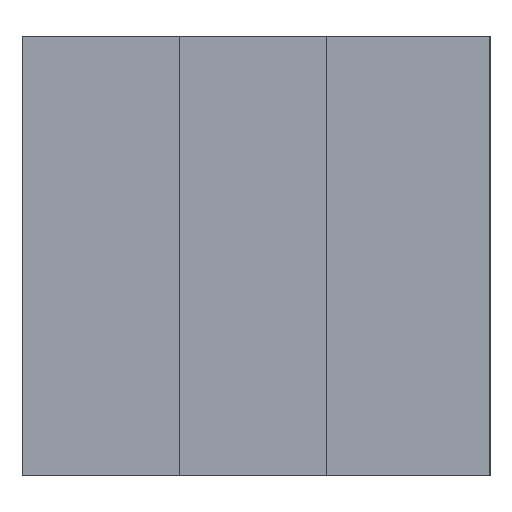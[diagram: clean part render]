
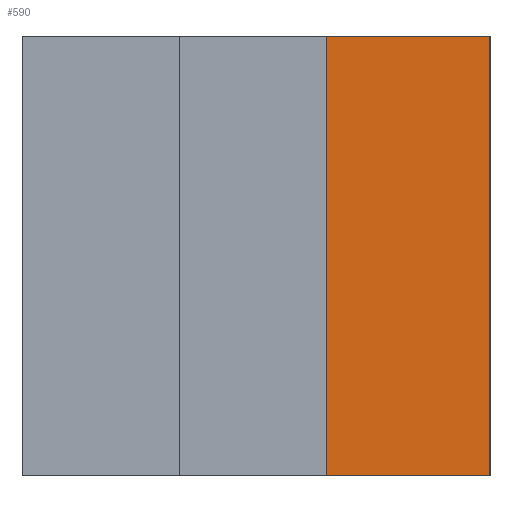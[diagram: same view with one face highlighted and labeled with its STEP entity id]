
A CAD part, left-side view. The second image highlights one B-rep face of the part: STEP entity #590.
In plain terms, the highlighted planar face has unit normal (-1, 0, 0).
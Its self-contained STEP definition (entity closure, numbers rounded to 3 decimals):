
#72 = PLANE('',#73);
#73 = AXIS2_PLACEMENT_3D('',#74,#75,#76);
#74 = CARTESIAN_POINT('',(60.,0.,7.));
#75 = DIRECTION('',(0.,0.,1.));
#76 = DIRECTION('',(1.,0.,0.));
#126 = PLANE('',#127);
#127 = AXIS2_PLACEMENT_3D('',#128,#129,#130);
#128 = CARTESIAN_POINT('',(60.,0.,0.));
#129 = DIRECTION('',(0.,0.,1.));
#130 = DIRECTION('',(1.,0.,0.));
#257 = PLANE('',#258);
#258 = AXIS2_PLACEMENT_3D('',#259,#260,#261);
#259 = CARTESIAN_POINT('',(120.,-3.725,0.));
#260 = DIRECTION('',(0.,-1.,0.));
#261 = DIRECTION('',(-1.,0.,0.));
#343 = VERTEX_POINT('',#344);
#344 = CARTESIAN_POINT('',(0.,-1.125,0.));
#357 = PLANE('',#358);
#358 = AXIS2_PLACEMENT_3D('',#359,#360,#361);
#359 = CARTESIAN_POINT('',(118.,-1.125,7.));
#360 = DIRECTION('',(0.,1.,-0.));
#361 = DIRECTION('',(-1.,0.,0.));
#368 = EDGE_CURVE('',#369,#343,#371,.T.);
#369 = VERTEX_POINT('',#370);
#370 = CARTESIAN_POINT('',(0.,-3.725,0.));
#371 = SURFACE_CURVE('',#372,(#376,#383),.PCURVE_S1.);
#372 = LINE('',#373,#374);
#373 = CARTESIAN_POINT('',(0.,-3.725,0.));
#374 = VECTOR('',#375,1.);
#375 = DIRECTION('',(0.,1.,0.));
#376 = PCURVE('',#126,#377);
#377 = DEFINITIONAL_REPRESENTATION('',(#378),#382);
#378 = LINE('',#379,#380);
#379 = CARTESIAN_POINT('',(-60.,-3.725));
#380 = VECTOR('',#381,1.);
#381 = DIRECTION('',(0.,1.));
#382 = ( GEOMETRIC_REPRESENTATION_CONTEXT(2) 
PARAMETRIC_REPRESENTATION_CONTEXT() REPRESENTATION_CONTEXT('2D SPACE',''
  ) );
#383 = PCURVE('',#384,#389);
#384 = PLANE('',#385);
#385 = AXIS2_PLACEMENT_3D('',#386,#387,#388);
#386 = CARTESIAN_POINT('',(0.,-3.725,0.));
#387 = DIRECTION('',(-1.,0.,0.));
#388 = DIRECTION('',(0.,1.,0.));
#389 = DEFINITIONAL_REPRESENTATION('',(#390),#394);
#390 = LINE('',#391,#392);
#391 = CARTESIAN_POINT('',(0.,0.));
#392 = VECTOR('',#393,1.);
#393 = DIRECTION('',(1.,0.));
#394 = ( GEOMETRIC_REPRESENTATION_CONTEXT(2) 
PARAMETRIC_REPRESENTATION_CONTEXT() REPRESENTATION_CONTEXT('2D SPACE',''
  ) );
#470 = VERTEX_POINT('',#471);
#471 = CARTESIAN_POINT('',(0.,-1.125,7.));
#492 = EDGE_CURVE('',#493,#470,#495,.T.);
#493 = VERTEX_POINT('',#494);
#494 = CARTESIAN_POINT('',(0.,-3.725,7.));
#495 = SURFACE_CURVE('',#496,(#500,#507),.PCURVE_S1.);
#496 = LINE('',#497,#498);
#497 = CARTESIAN_POINT('',(0.,-3.725,7.));
#498 = VECTOR('',#499,1.);
#499 = DIRECTION('',(0.,1.,0.));
#500 = PCURVE('',#72,#501);
#501 = DEFINITIONAL_REPRESENTATION('',(#502),#506);
#502 = LINE('',#503,#504);
#503 = CARTESIAN_POINT('',(-60.,-3.725));
#504 = VECTOR('',#505,1.);
#505 = DIRECTION('',(0.,1.));
#506 = ( GEOMETRIC_REPRESENTATION_CONTEXT(2) 
PARAMETRIC_REPRESENTATION_CONTEXT() REPRESENTATION_CONTEXT('2D SPACE',''
  ) );
#507 = PCURVE('',#384,#508);
#508 = DEFINITIONAL_REPRESENTATION('',(#509),#513);
#509 = LINE('',#510,#511);
#510 = CARTESIAN_POINT('',(0.,-7.));
#511 = VECTOR('',#512,1.);
#512 = DIRECTION('',(1.,0.));
#513 = ( GEOMETRIC_REPRESENTATION_CONTEXT(2) 
PARAMETRIC_REPRESENTATION_CONTEXT() REPRESENTATION_CONTEXT('2D SPACE',''
  ) );
#569 = EDGE_CURVE('',#369,#493,#570,.T.);
#570 = SURFACE_CURVE('',#571,(#575,#582),.PCURVE_S1.);
#571 = LINE('',#572,#573);
#572 = CARTESIAN_POINT('',(0.,-3.725,0.));
#573 = VECTOR('',#574,1.);
#574 = DIRECTION('',(0.,0.,1.));
#575 = PCURVE('',#257,#576);
#576 = DEFINITIONAL_REPRESENTATION('',(#577),#581);
#577 = LINE('',#578,#579);
#578 = CARTESIAN_POINT('',(120.,0.));
#579 = VECTOR('',#580,1.);
#580 = DIRECTION('',(0.,-1.));
#581 = ( GEOMETRIC_REPRESENTATION_CONTEXT(2) 
PARAMETRIC_REPRESENTATION_CONTEXT() REPRESENTATION_CONTEXT('2D SPACE',''
  ) );
#582 = PCURVE('',#384,#583);
#583 = DEFINITIONAL_REPRESENTATION('',(#584),#588);
#584 = LINE('',#585,#586);
#585 = CARTESIAN_POINT('',(0.,0.));
#586 = VECTOR('',#587,1.);
#587 = DIRECTION('',(0.,-1.));
#588 = ( GEOMETRIC_REPRESENTATION_CONTEXT(2) 
PARAMETRIC_REPRESENTATION_CONTEXT() REPRESENTATION_CONTEXT('2D SPACE',''
  ) );
#590 = ADVANCED_FACE('',(#591),#384,.T.);
#591 = FACE_BOUND('',#592,.T.);
#592 = EDGE_LOOP('',(#593,#594,#595,#596));
#593 = ORIENTED_EDGE('',*,*,#368,.F.);
#594 = ORIENTED_EDGE('',*,*,#569,.T.);
#595 = ORIENTED_EDGE('',*,*,#492,.T.);
#596 = ORIENTED_EDGE('',*,*,#597,.T.);
#597 = EDGE_CURVE('',#470,#343,#598,.T.);
#598 = SURFACE_CURVE('',#599,(#603,#610),.PCURVE_S1.);
#599 = LINE('',#600,#601);
#600 = CARTESIAN_POINT('',(0.,-1.125,7.));
#601 = VECTOR('',#602,1.);
#602 = DIRECTION('',(-0.,-0.,-1.));
#603 = PCURVE('',#384,#604);
#604 = DEFINITIONAL_REPRESENTATION('',(#605),#609);
#605 = LINE('',#606,#607);
#606 = CARTESIAN_POINT('',(2.6,-7.));
#607 = VECTOR('',#608,1.);
#608 = DIRECTION('',(0.,1.));
#609 = ( GEOMETRIC_REPRESENTATION_CONTEXT(2) 
PARAMETRIC_REPRESENTATION_CONTEXT() REPRESENTATION_CONTEXT('2D SPACE',''
  ) );
#610 = PCURVE('',#357,#611);
#611 = DEFINITIONAL_REPRESENTATION('',(#612),#616);
#612 = LINE('',#613,#614);
#613 = CARTESIAN_POINT('',(118.,0.));
#614 = VECTOR('',#615,1.);
#615 = DIRECTION('',(0.,-1.));
#616 = ( GEOMETRIC_REPRESENTATION_CONTEXT(2) 
PARAMETRIC_REPRESENTATION_CONTEXT() REPRESENTATION_CONTEXT('2D SPACE',''
  ) );
